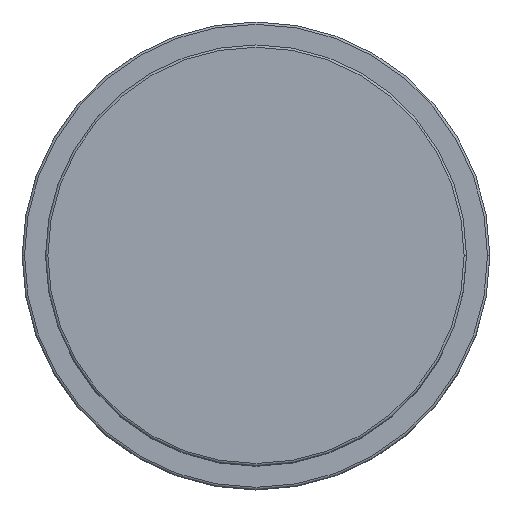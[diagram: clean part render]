
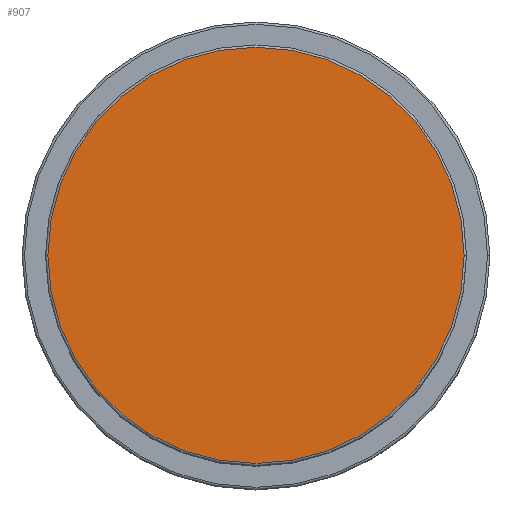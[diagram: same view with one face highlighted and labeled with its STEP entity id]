
A CAD part, top view. The second image highlights one B-rep face of the part: STEP entity #907.
In plain terms, the highlighted planar face has unit normal (0, 0, 1).
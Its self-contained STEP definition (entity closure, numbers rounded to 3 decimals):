
#98 = DIRECTION ( 'NONE',  ( 1., 0., 0. ) ) ;
#371 = EDGE_LOOP ( 'NONE', ( #747, #1473 ) ) ;
#392 = CARTESIAN_POINT ( 'NONE',  ( 0., 0., 77. ) ) ;
#432 = DIRECTION ( 'NONE',  ( 0., 0., 1. ) ) ;
#514 = DIRECTION ( 'NONE',  ( 0., 0., 1. ) ) ;
#592 = DIRECTION ( 'NONE',  ( 1., 0., 0. ) ) ;
#699 = CIRCLE ( 'NONE', #1116, 44.5 ) ;
#700 = PLANE ( 'NONE',  #894 ) ;
#747 = ORIENTED_EDGE ( 'NONE', *, *, #1272, .T. ) ;
#812 = CARTESIAN_POINT ( 'NONE',  ( -44.5, 0., 77. ) ) ;
#894 = AXIS2_PLACEMENT_3D ( 'NONE', #392, #514, #1335 ) ;
#907 = ADVANCED_FACE ( 'NONE', ( #932 ), #700, .T. ) ;
#932 = FACE_OUTER_BOUND ( 'NONE', #371, .T. ) ;
#1003 = DIRECTION ( 'NONE',  ( 0., 0., 1. ) ) ;
#1020 = CIRCLE ( 'NONE', #1565, 44.5 ) ;
#1116 = AXIS2_PLACEMENT_3D ( 'NONE', #1685, #432, #592 ) ;
#1272 = EDGE_CURVE ( 'NONE', #1938, #1513, #1020, .T. ) ;
#1335 = DIRECTION ( 'NONE',  ( 1., 0., 0. ) ) ;
#1473 = ORIENTED_EDGE ( 'NONE', *, *, #1845, .T. ) ;
#1513 = VERTEX_POINT ( 'NONE', #812 ) ;
#1565 = AXIS2_PLACEMENT_3D ( 'NONE', #1920, #1003, #98 ) ;
#1685 = CARTESIAN_POINT ( 'NONE',  ( 0., 0., 77. ) ) ;
#1796 = CARTESIAN_POINT ( 'NONE',  ( 44.5, 0., 77. ) ) ;
#1845 = EDGE_CURVE ( 'NONE', #1513, #1938, #699, .T. ) ;
#1920 = CARTESIAN_POINT ( 'NONE',  ( 0., 0., 77. ) ) ;
#1938 = VERTEX_POINT ( 'NONE', #1796 ) ;
